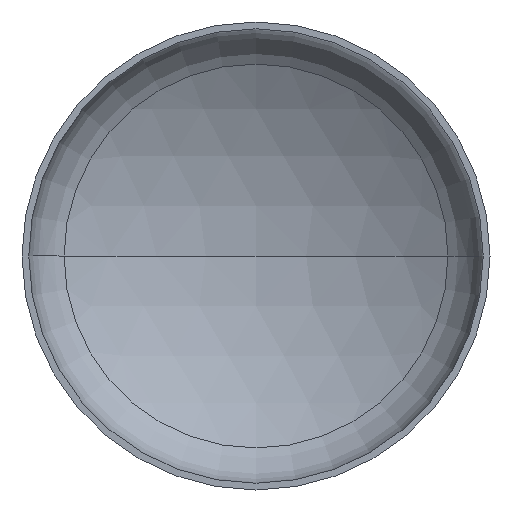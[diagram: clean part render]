
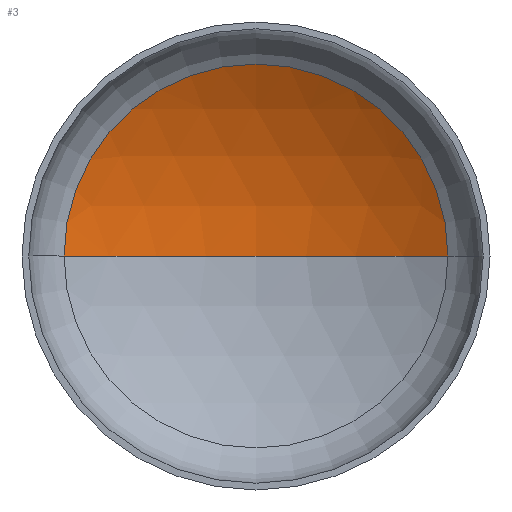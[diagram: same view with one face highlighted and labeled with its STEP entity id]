
A CAD part, front view. The second image highlights one B-rep face of the part: STEP entity #3.
In plain terms, the highlighted spherical face has radius 1760 mm.
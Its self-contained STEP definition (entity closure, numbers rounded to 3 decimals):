
#3 = ADVANCED_FACE ( 'NONE', ( #167 ), #193, .F. ) ;
#4 = AXIS2_PLACEMENT_3D ( 'NONE', #266, #41, #218 ) ;
#13 = VERTEX_POINT ( 'NONE', #286 ) ;
#18 = EDGE_LOOP ( 'NONE', ( #129, #155, #120 ) ) ;
#19 = AXIS2_PLACEMENT_3D ( 'NONE', #180, #182, #401 ) ;
#41 = DIRECTION ( 'NONE',  ( 0., 0., 1. ) ) ;
#48 = VERTEX_POINT ( 'NONE', #260 ) ;
#65 = AXIS2_PLACEMENT_3D ( 'NONE', #253, #282, #278 ) ;
#90 = CARTESIAN_POINT ( 'NONE',  ( 0., -1119.187, 0. ) ) ;
#98 = VERTEX_POINT ( 'NONE', #227 ) ;
#120 = ORIENTED_EDGE ( 'NONE', *, *, #344, .T. ) ;
#129 = ORIENTED_EDGE ( 'NONE', *, *, #391, .F. ) ;
#155 = ORIENTED_EDGE ( 'NONE', *, *, #393, .T. ) ;
#167 = FACE_OUTER_BOUND ( 'NONE', #18, .T. ) ;
#178 = CIRCLE ( 'NONE', #4, 1760. ) ;
#180 = CARTESIAN_POINT ( 'NONE',  ( 0., 391.918, 0. ) ) ;
#182 = DIRECTION ( 'NONE',  ( 0., -1., 0. ) ) ;
#193 = SPHERICAL_SURFACE ( 'NONE', #65, 1760. ) ;
#197 = CIRCLE ( 'NONE', #19, 902.31 ) ;
#218 = DIRECTION ( 'NONE',  ( 1., 0., 0. ) ) ;
#227 = CARTESIAN_POINT ( 'NONE',  ( 0., 640.813, 0. ) ) ;
#251 = CIRCLE ( 'NONE', #263, 1760. ) ;
#253 = CARTESIAN_POINT ( 'NONE',  ( 0., -1119.187, 0. ) ) ;
#260 = CARTESIAN_POINT ( 'NONE',  ( 902.31, 391.918, 0. ) ) ;
#263 = AXIS2_PLACEMENT_3D ( 'NONE', #90, #405, #265 ) ;
#265 = DIRECTION ( 'NONE',  ( -1., 0., 0. ) ) ;
#266 = CARTESIAN_POINT ( 'NONE',  ( 0., -1119.187, 0. ) ) ;
#278 = DIRECTION ( 'NONE',  ( -1., 0., 0. ) ) ;
#282 = DIRECTION ( 'NONE',  ( 0., 0., -1. ) ) ;
#286 = CARTESIAN_POINT ( 'NONE',  ( -902.31, 391.918, 0. ) ) ;
#344 = EDGE_CURVE ( 'NONE', #48, #13, #197, .T. ) ;
#391 = EDGE_CURVE ( 'NONE', #98, #13, #178, .T. ) ;
#393 = EDGE_CURVE ( 'NONE', #98, #48, #251, .T. ) ;
#401 = DIRECTION ( 'NONE',  ( 1., 0., 0. ) ) ;
#405 = DIRECTION ( 'NONE',  ( 0., 0., -1. ) ) ;
